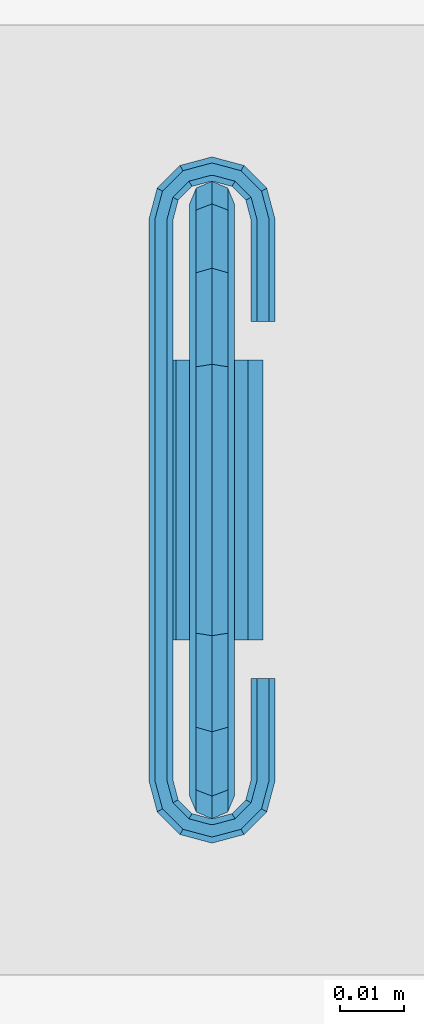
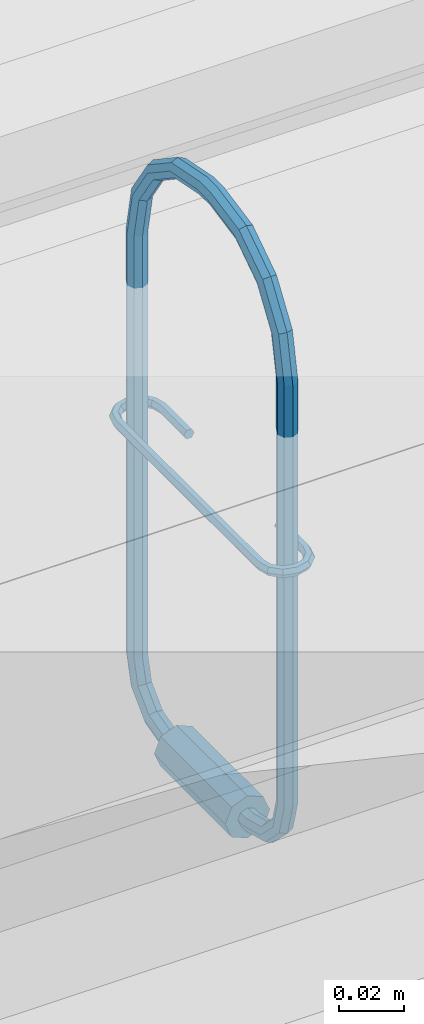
# One storey, part 151 of 230: 1 beam.
"""IFC4X3_ADD2 building model written with IfcOpenShell, lengths in millimetres."""

from ifc_helpers import new_model, si_unit, direction, origin_with_axes, place, context, subcontext, project, spatial, triangles, element, save


model = new_model("IFC4X3_ADD2")

# Units and contexts
model_context = context("Model", 3, precision=1e-05, world=origin_with_axes(), true_north=direction((0.0, 1.0)))
body_context = subcontext(model_context, "Body", "Model", "MODEL_VIEW")
ifc_project = project(units=[si_unit("LENGTHUNIT", "METRE", prefix="MILLI"), si_unit("AREAUNIT", "SQUARE_METRE"), si_unit("VOLUMEUNIT", "CUBIC_METRE"), si_unit("PLANEANGLEUNIT", "RADIAN"), si_unit("TIMEUNIT", "SECOND"), si_unit("MASSUNIT", "GRAM")], contexts=[model_context])

# Site, building, storey
site_placement = place(None, origin_with_axes())
site = spatial("IfcSite", under=ifc_project, at=site_placement, Name="Site", CompositionType="ELEMENT")
building_placement = place(site_placement, origin_with_axes())
building = spatial("IfcBuilding", under=site, at=building_placement, Name="IFC Building Story")
storey_placement = place(building_placement, origin_with_axes())
storey = spatial("IfcBuildingStorey", under=building, at=storey_placement, Name="ETAGE 00 (0)", Elevation=0.0)

# Beam
beam_placement = place(storey_placement, origin_with_axes())
element("IfcBeam", 1, at=beam_placement, inside=storey, Name="LU2", ObjectType="D7", context=body_context, shape_type="Tessellation", body=[
    triangles([(34519.6883056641, 8754.501100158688, 4038.500006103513), (34519.6883056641, 8744.001159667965, 4041.313497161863), (34518.66278686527, 8742.76344451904, 4039.170023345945), (34518.66278686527, 8754.501100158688, 4036.025157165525), (34519.6883056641, 8736.31441955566, 4048.999946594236), (34518.66278686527, 8734.170945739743, 4047.762522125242), (34516.18851928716, 8733.283209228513, 4047.250053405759), (34516.18851928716, 8742.250685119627, 4038.282286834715), (34513.71425170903, 8742.76344451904, 4039.170023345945), (34513.71425170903, 8734.170945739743, 4047.762522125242), (34512.6887329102, 8744.001159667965, 4041.313497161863), (34512.6887329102, 8736.31441955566, 4048.999946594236), (34513.71425170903, 8738.457893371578, 4050.237371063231), (34513.71425170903, 8745.238293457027, 4043.456680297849), (34516.18851928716, 8739.34562988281, 4050.750130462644), (34516.18851928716, 8745.751052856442, 4044.34441680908), (34518.66278686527, 8738.457893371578, 4050.237371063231), (34518.66278686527, 8745.238293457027, 4043.456680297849), (34519.6883056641, 8733.50063781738, 4059.499887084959), (34518.66278686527, 8735.975486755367, 4059.499887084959), (34518.66278686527, 8731.025788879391, 4059.499887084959), (34516.18851928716, 8730.000851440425, 4059.499887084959), (34513.71425170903, 8731.025788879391, 4059.499887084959), (34512.6887329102, 8733.50063781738, 4059.499887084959), (34513.71425170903, 8735.975486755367, 4059.499887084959), (34516.18851928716, 8737.001005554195, 4059.499887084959), (34518.66278686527, 8735.975486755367, 4218.50006561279), (34516.18851928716, 8737.001005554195, 4218.50006561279), (34518.66278686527, 8739.060763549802, 4234.008421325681), (34516.18851928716, 8740.007798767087, 4233.616003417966), (34518.66278686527, 8747.845111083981, 4247.155583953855), (34516.18851928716, 8748.570066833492, 4246.430628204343), (34519.6883056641, 8746.095217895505, 4248.905477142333), (34519.6883056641, 8736.774275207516, 4234.955456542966), (34518.66278686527, 8744.345324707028, 4250.65566101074), (34518.66278686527, 8734.487786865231, 4235.902491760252), (34516.18851928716, 8743.620368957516, 4251.38032608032), (34516.18851928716, 8733.540751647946, 4236.294909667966), (34513.71425170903, 8734.487786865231, 4235.902491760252), (34513.71425170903, 8744.345324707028, 4250.65566101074), (34512.6887329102, 8736.774275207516, 4234.955456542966), (34512.6887329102, 8746.095217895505, 4248.905477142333), (34513.71425170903, 8747.845111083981, 4247.155583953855), (34513.71425170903, 8739.060763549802, 4234.008421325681), (34516.18851928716, 8761.384982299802, 4254.993186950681), (34513.71425170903, 8760.992564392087, 4255.940222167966), (34518.66278686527, 8760.992564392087, 4255.940222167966), (34519.6883056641, 8760.045529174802, 4258.226710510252), (34518.66278686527, 8759.098493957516, 4260.513198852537), (34516.18851928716, 8758.7060760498, 4261.460524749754), (34513.71425170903, 8759.098493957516, 4260.513198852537), (34512.6887329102, 8760.045529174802, 4258.226710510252), (34513.71425170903, 8776.500920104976, 4259.025208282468), (34512.6887329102, 8776.500920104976, 4261.500057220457), (34516.18851928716, 8776.500920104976, 4257.999980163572), (34518.66278686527, 8776.500920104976, 4259.025208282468), (34519.6883056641, 8776.500920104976, 4261.500057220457), (34518.66278686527, 8776.500920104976, 4263.974906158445), (34516.18851928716, 8776.500920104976, 4265.000134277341), (34513.71425170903, 8776.500920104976, 4263.974906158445), (34513.71425170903, 8783.501074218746, 4263.974906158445), (34512.6887329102, 8783.501074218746, 4261.500057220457), (34513.71425170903, 8800.903500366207, 4260.513198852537), (34512.6887329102, 8799.956465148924, 4258.226710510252), (34513.71425170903, 8815.656669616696, 4250.65566101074), (34512.6887329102, 8813.906776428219, 4248.905477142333), (34513.71425170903, 8812.156301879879, 4247.155583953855), (34513.71425170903, 8799.009429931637, 4255.940222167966), (34516.18851928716, 8811.431346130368, 4246.430628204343), (34516.18851928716, 8798.617012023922, 4254.993186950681), (34518.66278686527, 8812.156301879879, 4247.155583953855), (34518.66278686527, 8799.009429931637, 4255.940222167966), (34519.6883056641, 8813.906776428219, 4248.905477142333), (34519.6883056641, 8799.956465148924, 4258.226710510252), (34518.66278686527, 8815.656669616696, 4250.65566101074), (34518.66278686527, 8800.903500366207, 4260.513198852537), (34516.18851928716, 8816.381625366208, 4251.38032608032), (34516.18851928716, 8801.295918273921, 4261.460524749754), (34516.18851928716, 8826.46124267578, 4236.294909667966), (34513.71425170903, 8825.514207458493, 4235.902491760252), (34512.6887329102, 8823.227719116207, 4234.955456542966), (34513.71425170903, 8820.941230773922, 4234.008421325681), (34516.18851928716, 8819.994195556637, 4233.616003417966), (34518.66278686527, 8820.941230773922, 4234.008421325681), (34519.6883056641, 8823.227719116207, 4234.955456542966), (34518.66278686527, 8825.514207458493, 4235.902491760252), (34518.66278686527, 8828.975624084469, 4218.50006561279), (34516.18851928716, 8830.001142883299, 4218.50006561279), (34513.71425170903, 8828.975624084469, 4218.50006561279), (34512.6887329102, 8826.500775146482, 4218.50006561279), (34513.71425170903, 8824.025926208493, 4218.50006561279), (34516.18851928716, 8823.000988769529, 4218.50006561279), (34518.66278686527, 8824.025926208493, 4218.50006561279), (34519.6883056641, 8826.500775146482, 4218.50006561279), (34519.6883056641, 8826.500775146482, 4059.499887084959), (34518.66278686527, 8828.975624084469, 4059.499887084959), (34519.6883056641, 8823.687574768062, 4048.999946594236), (34518.66278686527, 8825.830467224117, 4047.762522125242), (34519.6883056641, 8816.000834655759, 4041.313497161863), (34518.66278686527, 8817.238549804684, 4039.170023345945), (34516.18851928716, 8817.750727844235, 4038.282286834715), (34516.18851928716, 8826.71878509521, 4047.250053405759), (34513.71425170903, 8825.830467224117, 4047.762522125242), (34513.71425170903, 8817.238549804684, 4039.170023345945), (34512.6887329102, 8823.687574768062, 4048.999946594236), (34512.6887329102, 8816.000834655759, 4041.313497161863), (34513.71425170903, 8814.763700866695, 4043.456680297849), (34513.71425170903, 8821.544100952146, 4050.237371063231), (34516.18851928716, 8814.250941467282, 4044.34441680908), (34516.18851928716, 8820.656364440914, 4050.750130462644), (34518.66278686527, 8814.763700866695, 4043.456680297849), (34518.66278686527, 8821.544100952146, 4050.237371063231), (34519.6883056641, 8805.500894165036, 4038.500006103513), (34518.66278686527, 8805.500894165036, 4040.974855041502), (34518.66278686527, 8805.500894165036, 4036.025157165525), (34516.18851928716, 8805.500894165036, 4034.999929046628), (34513.71425170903, 8805.500894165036, 4036.025157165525), (34512.6887329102, 8805.500894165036, 4038.500006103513), (34513.71425170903, 8805.500894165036, 4040.974855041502), (34516.18851928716, 8805.500894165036, 4042.000083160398), (34518.66278686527, 8802.001107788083, 4040.974855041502), (34516.18851928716, 8802.001107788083, 4042.000083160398), (34513.71425170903, 8802.001107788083, 4040.974855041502), (34512.6887329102, 8802.001107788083, 4038.500006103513), (34513.71425170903, 8802.001107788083, 4036.025157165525), (34516.18851928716, 8802.001107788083, 4034.999929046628), (34518.66278686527, 8802.001107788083, 4036.025157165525), (34519.6883056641, 8802.001107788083, 4038.500006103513), (34524.1880310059, 8802.001107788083, 4038.500006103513), (34516.18851928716, 8802.001107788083, 4030.4999130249), (34510.53305053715, 8802.001107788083, 4032.843083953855), (34508.18900756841, 8802.001107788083, 4038.500006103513), (34521.84631347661, 8802.001107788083, 4032.843083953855), (34510.53305053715, 8802.001107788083, 4044.156928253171), (34516.18851928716, 8802.001107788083, 4046.500099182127), (34521.84631347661, 8802.001107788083, 4044.156928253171), (34516.18851928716, 8758.000886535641, 4030.4999130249), (34510.53305053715, 8758.000886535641, 4032.843083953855), (34508.18900756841, 8758.000886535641, 4038.500006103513), (34510.53305053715, 8758.000886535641, 4044.156928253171), (34516.18851928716, 8758.000886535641, 4046.500099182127), (34521.84631347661, 8758.000886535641, 4044.156928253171), (34524.1880310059, 8758.000886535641, 4038.500006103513), (34521.84631347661, 8758.000886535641, 4032.843083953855), (34518.66278686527, 8758.000886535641, 4040.974855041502), (34519.6883056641, 8758.000886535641, 4038.500006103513), (34513.71425170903, 8758.000886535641, 4040.974855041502), (34516.18851928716, 8758.000886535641, 4042.000083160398), (34512.6887329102, 8758.000886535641, 4038.500006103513), (34513.71425170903, 8758.000886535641, 4036.025157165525), (34516.18851928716, 8758.000886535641, 4034.999929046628), (34518.66278686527, 8758.000886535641, 4036.025157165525), (34516.18851928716, 8754.501100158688, 4034.999929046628), (34513.71425170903, 8754.501100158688, 4036.025157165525), (34512.6887329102, 8754.501100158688, 4038.500006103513), (34513.71425170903, 8754.501100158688, 4040.974855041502), (34516.18851928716, 8754.501100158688, 4042.000083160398), (34518.66278686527, 8754.501100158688, 4040.974855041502), (34518.66278686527, 8824.025926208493, 4059.499887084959), (34516.18851928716, 8823.000988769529, 4059.499887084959), (34513.71425170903, 8824.025926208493, 4059.499887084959), (34512.6887329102, 8826.500775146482, 4059.499887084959), (34513.71425170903, 8828.975624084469, 4059.499887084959), (34516.18851928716, 8830.001142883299, 4059.499887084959), (34516.18851928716, 8783.501074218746, 4265.000134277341), (34518.66278686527, 8783.501074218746, 4263.974906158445), (34519.6883056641, 8783.501074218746, 4261.500057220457), (34518.66278686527, 8783.501074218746, 4259.025208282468), (34516.18851928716, 8783.501074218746, 4257.999980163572), (34513.71425170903, 8783.501074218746, 4259.025208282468), (34513.71425170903, 8735.975486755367, 4218.50006561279), (34512.6887329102, 8733.50063781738, 4218.50006561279), (34513.71425170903, 8731.025788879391, 4218.50006561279), (34516.18851928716, 8730.000851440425, 4218.50006561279), (34518.66278686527, 8731.025788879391, 4218.50006561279), (34519.6883056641, 8733.50063781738, 4218.50006561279), (34523.23925170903, 8752.000671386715, 4148.354637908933), (34523.23925170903, 8735.941186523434, 4148.354637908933), (34522.2881469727, 8752.000671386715, 4149.999886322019), (34522.2881469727, 8735.941186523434, 4149.999886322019), (34522.31605224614, 8732.49604797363, 4148.354637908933), (34521.49284667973, 8732.97101898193, 4149.999886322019), (34519.7929504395, 8729.974108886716, 4148.354637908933), (34519.31856079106, 8730.796733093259, 4149.999886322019), (34522.31605224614, 8732.49604797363, 4151.645425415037), (34519.7929504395, 8729.974108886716, 4151.645425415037), (34508.41690063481, 8731.546105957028, 4151.645425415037), (34510.06098632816, 8732.49604797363, 4151.645425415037), (34507.23790283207, 8735.941186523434, 4151.645425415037), (34512.58408813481, 8729.974108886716, 4151.645425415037), (34511.63298339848, 8728.328279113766, 4151.645425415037), (34509.14011230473, 8735.941186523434, 4151.645425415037), (34516.02806396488, 8729.050909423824, 4151.645425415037), (34516.34897460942, 8727.151025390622, 4151.645425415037), (34516.02806396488, 8727.151025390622, 4151.645425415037), (34516.34897460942, 8729.050909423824, 4151.645425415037), (34509.14011230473, 8824.06080780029, 4151.645425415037), (34507.23790283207, 8824.06080780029, 4151.645425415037), (34512.58408813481, 8830.027885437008, 4151.645425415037), (34511.63298339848, 8831.673133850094, 4151.645425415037), (34508.41690063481, 8828.455888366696, 4151.645425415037), (34510.06098632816, 8827.505946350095, 4151.645425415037), (34516.02806396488, 8830.9510848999, 4151.645425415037), (34516.34897460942, 8832.850968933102, 4151.645425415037), (34516.02806396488, 8832.850968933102, 4151.645425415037), (34516.34897460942, 8830.9510848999, 4151.645425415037), (34520.74405517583, 8831.673133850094, 4151.645425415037), (34523.96246337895, 8731.546105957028, 4151.645425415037), (34520.74405517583, 8728.328279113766, 4151.645425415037), (34525.13913574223, 8735.941186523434, 4151.645425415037), (34523.23925170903, 8735.941186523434, 4151.645425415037), (34525.13913574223, 8752.000671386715, 4151.645425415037), (34523.23925170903, 8752.000671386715, 4151.645425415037), (34519.7929504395, 8830.027885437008, 4151.645425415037), (34523.96246337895, 8828.455888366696, 4151.645425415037), (34522.31605224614, 8827.505946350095, 4151.645425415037), (34525.13913574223, 8824.06080780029, 4151.645425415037), (34523.23925170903, 8824.06080780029, 4151.645425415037), (34525.13913574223, 8808.000741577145, 4151.645425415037), (34523.23925170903, 8808.000741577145, 4151.645425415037), (34525.13913574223, 8808.000741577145, 4148.354637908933), (34523.23925170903, 8808.000741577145, 4148.354637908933), (34522.2881469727, 8808.000741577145, 4149.999886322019), (34526.0879150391, 8808.000741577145, 4149.999886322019), (34523.23925170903, 8824.06080780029, 4148.354637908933), (34522.2881469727, 8824.06080780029, 4149.999886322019), (34508.41690063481, 8828.455888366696, 4148.354637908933), (34510.06098632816, 8827.505946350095, 4148.354637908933), (34507.23790283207, 8824.06080780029, 4148.354637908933), (34512.58408813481, 8830.027885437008, 4148.354637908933), (34511.63298339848, 8831.673133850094, 4148.354637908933), (34509.14011230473, 8824.06080780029, 4148.354637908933), (34516.02806396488, 8830.9510848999, 4148.354637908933), (34516.34897460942, 8832.850968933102, 4148.354637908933), (34516.34897460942, 8830.9510848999, 4148.354637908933), (34516.02806396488, 8832.850968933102, 4148.354637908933), (34509.14011230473, 8735.941186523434, 4148.354637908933), (34507.23790283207, 8735.941186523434, 4148.354637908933), (34512.58408813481, 8729.974108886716, 4148.354637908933), (34511.63298339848, 8728.328279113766, 4148.354637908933), (34508.41690063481, 8731.546105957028, 4148.354637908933), (34510.06098632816, 8732.49604797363, 4148.354637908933), (34516.02806396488, 8729.050909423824, 4148.354637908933), (34516.02806396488, 8727.151025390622, 4148.354637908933), (34516.34897460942, 8727.151025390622, 4148.354637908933), (34516.34897460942, 8729.050909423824, 4148.354637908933), (34520.74405517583, 8728.328279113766, 4148.354637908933), (34519.7929504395, 8830.027885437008, 4148.354637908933), (34523.96246337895, 8828.455888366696, 4148.354637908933), (34522.31605224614, 8827.505946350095, 4148.354637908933), (34520.74405517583, 8831.673133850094, 4148.354637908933), (34525.13913574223, 8824.06080780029, 4148.354637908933), (34523.96246337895, 8731.546105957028, 4148.354637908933), (34525.13913574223, 8735.941186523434, 4148.354637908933), (34525.13913574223, 8752.000671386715, 4148.354637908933), (34526.0879150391, 8824.06080780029, 4149.999886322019), (34524.7833435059, 8828.930859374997, 4149.999886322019), (34521.21844482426, 8832.495758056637, 4149.999886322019), (34516.34897460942, 8833.800910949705, 4149.999886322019), (34516.02806396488, 8833.800910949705, 4149.999886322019), (34511.15859375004, 8832.495758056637, 4149.999886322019), (34507.5936950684, 8828.930859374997, 4149.999886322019), (34506.2891235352, 8824.06080780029, 4149.999886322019), (34506.2891235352, 8735.941186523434, 4149.999886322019), (34507.5936950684, 8731.071134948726, 4149.999886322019), (34511.15859375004, 8727.505654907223, 4149.999886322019), (34516.02806396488, 8726.20108337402, 4149.999886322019), (34516.34897460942, 8726.20108337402, 4149.999886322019), (34521.21844482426, 8727.505654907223, 4149.999886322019), (34524.7833435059, 8731.071134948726, 4149.999886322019), (34526.0879150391, 8735.941186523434, 4149.999886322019), (34526.0879150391, 8752.000671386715, 4149.999886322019), (34516.34897460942, 8730.000851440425, 4149.999886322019), (34516.02806396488, 8730.000851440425, 4149.999886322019), (34513.05847778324, 8730.796733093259, 4149.999886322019), (34510.88419189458, 8732.97101898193, 4149.999886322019), (34510.0888916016, 8735.941186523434, 4149.999886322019), (34510.0888916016, 8824.06080780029, 4149.999886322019), (34510.88419189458, 8827.030975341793, 4149.999886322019), (34513.05847778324, 8829.205261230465, 4149.999886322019), (34516.02806396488, 8830.001142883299, 4149.999886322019), (34516.34897460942, 8830.001142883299, 4149.999886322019), (34519.31856079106, 8829.205261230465, 4149.999886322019), (34521.49284667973, 8827.030975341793, 4149.999886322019)], [[1, 2, 3], [3, 4, 1], [2, 5, 6], [6, 3, 2], [3, 6, 7], [7, 8, 3], [8, 7, 9], [10, 9, 7], [9, 10, 11], [12, 11, 10], [13, 14, 11], [11, 12, 13], [15, 16, 14], [14, 13, 15], [17, 18, 15], [16, 15, 18], [5, 2, 17], [18, 17, 2], [19, 5, 20], [17, 20, 5], [5, 19, 21], [21, 6, 5], [6, 21, 22], [22, 7, 6], [7, 22, 10], [23, 10, 22], [10, 23, 12], [24, 12, 23], [25, 13, 12], [12, 24, 25], [26, 15, 13], [13, 25, 26], [20, 17, 26], [15, 26, 17], [27, 20, 26], [26, 28, 27], [29, 27, 30], [28, 30, 27], [31, 29, 32], [30, 32, 29], [33, 34, 31], [29, 31, 34], [34, 33, 35], [35, 36, 34], [36, 35, 37], [37, 38, 36], [38, 37, 39], [40, 39, 37], [39, 40, 41], [42, 41, 40], [43, 44, 41], [41, 42, 43], [32, 30, 44], [44, 43, 32], [45, 32, 43], [43, 46, 45], [47, 31, 45], [32, 45, 31], [48, 33, 47], [31, 47, 33], [33, 48, 49], [49, 35, 33], [35, 49, 50], [50, 37, 35], [37, 50, 40], [51, 40, 50], [40, 51, 42], [52, 42, 51], [46, 43, 42], [42, 52, 46], [53, 46, 52], [52, 54, 53], [55, 45, 46], [46, 53, 55], [56, 47, 55], [45, 55, 47], [57, 48, 56], [47, 56, 48], [48, 57, 58], [58, 49, 48], [49, 58, 59], [59, 50, 49], [50, 59, 51], [60, 51, 59], [51, 60, 52], [54, 52, 60], [60, 61, 54], [62, 54, 61], [61, 63, 62], [64, 62, 63], [63, 65, 64], [66, 64, 65], [67, 68, 64], [64, 66, 67], [69, 70, 68], [68, 67, 69], [71, 72, 69], [70, 69, 72], [73, 74, 71], [72, 71, 74], [74, 73, 75], [75, 76, 74], [76, 75, 77], [77, 78, 76], [78, 77, 63], [65, 63, 77], [77, 79, 65], [80, 65, 79], [65, 80, 66], [81, 66, 80], [82, 67, 66], [66, 81, 82], [83, 69, 67], [67, 82, 83], [84, 71, 83], [69, 83, 71], [85, 73, 84], [71, 84, 73], [73, 85, 86], [86, 75, 73], [75, 86, 79], [79, 77, 75], [86, 87, 88], [88, 79, 86], [79, 88, 80], [89, 80, 88], [80, 89, 81], [90, 81, 89], [91, 82, 81], [81, 90, 91], [92, 83, 82], [82, 91, 92], [93, 84, 92], [83, 92, 84], [94, 85, 93], [84, 93, 85], [85, 94, 87], [87, 86, 85], [94, 95, 96], [96, 87, 94], [95, 97, 98], [98, 96, 95], [97, 99, 100], [100, 98, 97], [98, 100, 101], [101, 102, 98], [102, 101, 103], [104, 103, 101], [103, 104, 105], [106, 105, 104], [107, 108, 105], [105, 106, 107], [109, 110, 108], [108, 107, 109], [111, 112, 109], [110, 109, 112], [99, 97, 111], [112, 111, 97], [113, 99, 114], [111, 114, 99], [99, 113, 115], [115, 100, 99], [100, 115, 116], [116, 101, 100], [101, 116, 104], [117, 104, 116], [104, 117, 106], [118, 106, 117], [119, 107, 106], [106, 118, 119], [120, 109, 107], [107, 119, 120], [114, 111, 120], [109, 120, 111], [121, 114, 122], [120, 122, 114], [122, 120, 119], [119, 123, 122], [123, 119, 124], [118, 124, 119], [117, 125, 124], [124, 118, 117], [116, 126, 117], [125, 117, 126], [115, 127, 126], [126, 116, 115], [113, 128, 115], [127, 115, 128], [128, 113, 114], [114, 121, 128], [127, 128, 129], [125, 126, 130], [130, 131, 125], [132, 124, 125], [132, 125, 131], [133, 126, 127], [126, 133, 130], [127, 129, 133], [134, 124, 132], [123, 135, 122], [123, 124, 134], [134, 135, 123], [136, 129, 128], [128, 121, 136], [122, 136, 121], [136, 122, 135], [130, 137, 131], [138, 131, 137], [131, 138, 132], [139, 132, 138], [140, 134, 139], [132, 139, 134], [141, 135, 140], [134, 140, 135], [142, 136, 141], [135, 141, 136], [143, 129, 142], [136, 142, 129], [129, 143, 133], [144, 133, 143], [133, 144, 130], [137, 130, 144], [145, 146, 143], [147, 148, 141], [141, 140, 147], [139, 149, 147], [139, 147, 140], [142, 148, 145], [148, 142, 141], [145, 143, 142], [138, 149, 139], [150, 137, 151], [150, 149, 138], [138, 137, 150], [144, 143, 146], [146, 152, 144], [151, 144, 152], [144, 151, 137], [146, 1, 152], [4, 152, 1], [152, 4, 151], [153, 151, 4], [151, 153, 150], [154, 150, 153], [150, 154, 149], [155, 149, 154], [156, 147, 155], [149, 155, 147], [157, 148, 156], [147, 156, 148], [158, 145, 157], [148, 157, 145], [1, 146, 158], [145, 158, 146], [2, 1, 18], [158, 18, 1], [18, 158, 16], [157, 16, 158], [16, 157, 156], [156, 14, 16], [14, 156, 155], [155, 11, 14], [154, 9, 155], [11, 155, 9], [153, 8, 154], [9, 154, 8], [4, 3, 8], [8, 153, 4], [97, 95, 112], [159, 112, 95], [112, 159, 110], [160, 110, 159], [110, 160, 161], [161, 108, 110], [108, 161, 162], [162, 105, 108], [163, 103, 162], [105, 162, 103], [164, 102, 163], [103, 163, 102], [96, 98, 102], [102, 164, 96], [87, 96, 88], [164, 88, 96], [88, 164, 163], [163, 89, 88], [89, 163, 90], [162, 90, 163], [161, 91, 162], [90, 162, 91], [160, 92, 161], [91, 161, 92], [159, 93, 92], [92, 160, 159], [95, 94, 93], [93, 159, 95], [165, 78, 61], [63, 61, 78], [166, 76, 78], [78, 165, 166], [167, 74, 76], [76, 166, 167], [74, 167, 72], [168, 72, 167], [72, 168, 70], [169, 70, 168], [70, 169, 170], [170, 68, 70], [68, 170, 62], [62, 64, 68], [170, 53, 62], [54, 62, 53], [169, 55, 170], [53, 170, 55], [168, 56, 55], [55, 169, 168], [167, 57, 56], [56, 168, 167], [57, 167, 166], [166, 58, 57], [58, 166, 165], [165, 59, 58], [59, 165, 60], [61, 60, 165], [30, 28, 171], [171, 44, 30], [44, 171, 172], [172, 41, 44], [173, 39, 172], [41, 172, 39], [174, 38, 173], [39, 173, 38], [175, 36, 38], [38, 174, 175], [176, 34, 36], [36, 175, 176], [34, 176, 29], [27, 29, 176], [176, 19, 20], [20, 27, 176], [19, 176, 175], [175, 21, 19], [21, 175, 22], [174, 22, 175], [22, 174, 173], [173, 23, 22], [23, 173, 24], [172, 24, 173], [171, 25, 172], [24, 172, 25], [28, 26, 171], [25, 171, 26], [177, 178, 179], [180, 179, 178], [178, 181, 182], [182, 180, 178], [182, 181, 183], [183, 184, 182], [185, 182, 186], [184, 186, 182], [187, 188, 189], [190, 188, 187], [190, 187, 191], [192, 189, 188], [193, 190, 191], [194, 193, 195], [193, 194, 196], [195, 193, 191], [189, 197, 198], [199, 200, 201], [192, 197, 189], [198, 202, 201], [202, 198, 197], [201, 202, 199], [203, 204, 205], [203, 205, 200], [203, 206, 204], [199, 203, 200], [207, 204, 206], [186, 208, 185], [196, 209, 186], [209, 208, 186], [194, 209, 196], [210, 211, 185], [185, 208, 210], [211, 212, 213], [212, 211, 210], [214, 215, 207], [216, 215, 214], [214, 207, 206], [217, 215, 216], [218, 219, 217], [219, 218, 220], [218, 217, 216], [220, 221, 219], [222, 220, 223], [219, 221, 224], [220, 222, 221], [225, 222, 223], [223, 226, 225], [227, 228, 229], [230, 228, 227], [230, 227, 231], [232, 229, 228], [233, 234, 235], [233, 230, 231], [231, 236, 233], [236, 234, 233], [229, 237, 238], [239, 240, 241], [232, 237, 229], [238, 242, 241], [242, 238, 237], [241, 242, 239], [243, 244, 240], [240, 239, 243], [243, 245, 244], [245, 243, 246], [246, 247, 245], [248, 249, 250], [235, 251, 248], [251, 249, 248], [234, 251, 235], [252, 225, 250], [250, 249, 252], [225, 221, 222], [221, 225, 252], [183, 253, 247], [181, 253, 183], [183, 247, 246], [254, 253, 181], [178, 255, 254], [255, 178, 177], [178, 254, 181], [256, 224, 221], [221, 252, 256], [224, 256, 219], [217, 219, 256], [217, 256, 215], [257, 215, 256], [256, 252, 249], [249, 257, 256], [257, 249, 258], [251, 258, 249], [215, 257, 258], [258, 207, 215], [207, 258, 259], [259, 204, 207], [204, 259, 205], [260, 205, 259], [205, 260, 200], [261, 200, 260], [260, 236, 231], [231, 261, 260], [259, 234, 236], [236, 260, 259], [258, 251, 259], [234, 259, 251], [261, 231, 227], [227, 262, 261], [200, 261, 201], [262, 201, 261], [201, 262, 263], [263, 198, 201], [189, 198, 264], [263, 264, 198], [265, 187, 264], [189, 264, 187], [241, 265, 264], [264, 238, 241], [229, 238, 264], [264, 263, 229], [262, 227, 263], [229, 263, 227], [240, 266, 241], [265, 241, 266], [266, 191, 187], [187, 265, 266], [267, 195, 191], [191, 266, 267], [268, 194, 195], [195, 267, 268], [269, 209, 268], [194, 268, 209], [247, 269, 268], [268, 245, 247], [245, 268, 244], [267, 244, 268], [244, 267, 240], [266, 240, 267], [253, 270, 269], [269, 247, 253], [270, 208, 269], [209, 269, 208], [271, 210, 208], [208, 270, 271], [271, 272, 210], [212, 210, 272], [212, 177, 213], [255, 212, 272], [213, 177, 179], [212, 255, 177], [272, 271, 255], [254, 255, 271], [254, 271, 253], [270, 253, 271], [211, 213, 179], [179, 180, 211], [185, 211, 182], [180, 182, 211], [184, 183, 246], [246, 273, 184], [186, 184, 196], [273, 196, 184], [196, 273, 193], [274, 193, 273], [193, 274, 275], [275, 190, 193], [190, 275, 276], [276, 188, 190], [276, 277, 192], [192, 188, 276], [277, 278, 197], [197, 192, 277], [278, 279, 197], [202, 197, 279], [280, 199, 279], [202, 279, 199], [281, 203, 280], [199, 280, 203], [282, 206, 281], [203, 281, 206], [283, 214, 206], [206, 282, 283], [284, 216, 214], [214, 283, 284], [218, 216, 284], [284, 226, 218], [220, 218, 223], [226, 223, 218], [250, 225, 284], [226, 284, 225], [250, 284, 248], [283, 248, 284], [248, 283, 235], [282, 235, 283], [235, 282, 281], [281, 233, 235], [233, 281, 280], [280, 230, 233], [230, 280, 279], [279, 228, 230], [279, 278, 232], [232, 228, 279], [278, 277, 232], [237, 232, 277], [277, 276, 237], [242, 237, 276], [275, 239, 276], [242, 276, 239], [274, 243, 275], [239, 275, 243], [273, 246, 243], [243, 274, 273]]),
])

save(model, "model.ifc")
